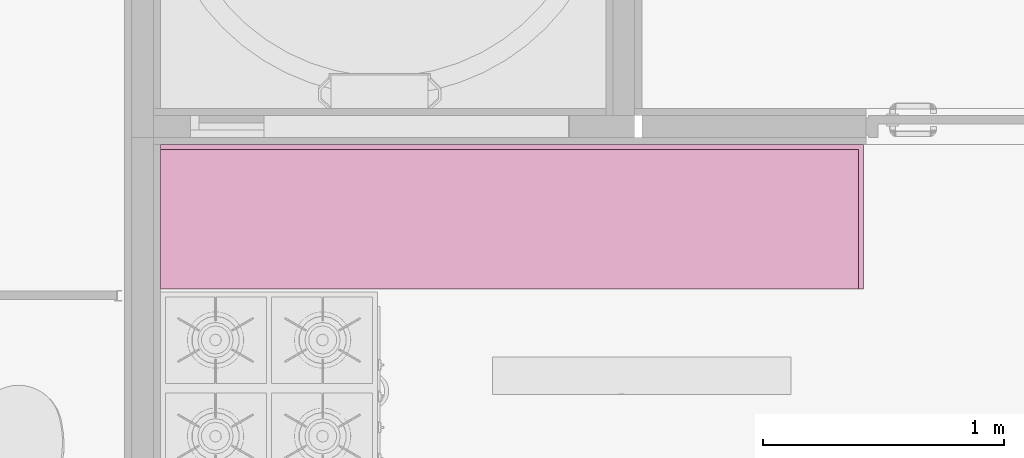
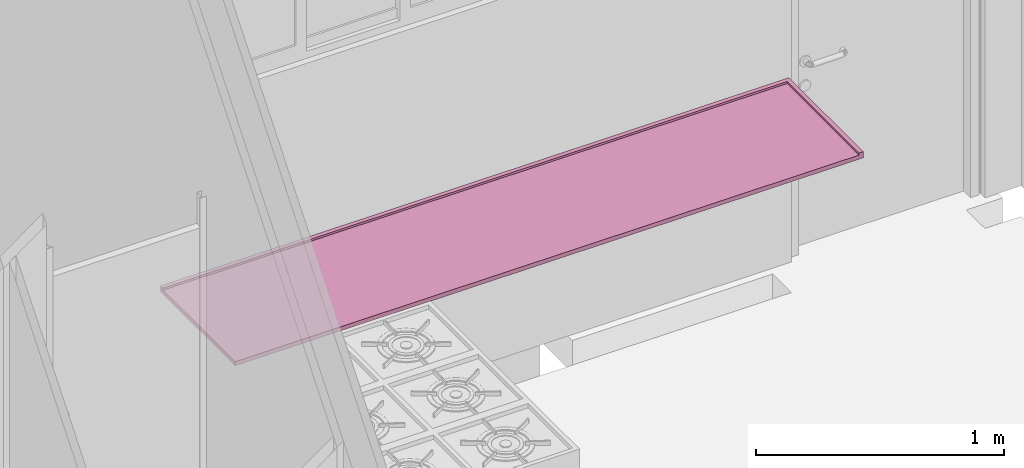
# One storey, part 150 of 155: 1 furnishing.
"""IFC2X3 building model written with IfcOpenShell, lengths in metres."""

from ifc_helpers import new_model, entity, si_unit, converted_unit, derived_unit, direction, frame, frame_2d, origin, origin_2d_with_axis, place, context, subcontext, project, spatial, rectangle, extrude, source, transform, mapped, type_object, type_shapes, element, save


model = new_model("IFC2X3")

# Units and contexts
model_context = context("Model", 3, precision=1e-05, world=origin(), true_north=direction((6.12303176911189e-17, 1.0)))
body_context = subcontext(model_context, "Body", "Model", "MODEL_VIEW")
ifc_project = project(units=[si_unit("LENGTHUNIT", "METRE"), si_unit("AREAUNIT", "SQUARE_METRE"), si_unit("VOLUMEUNIT", "CUBIC_METRE"), converted_unit("PLANEANGLEUNIT", "DEGREE", entity("IfcRatioMeasure", 0.0174532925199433), si_unit("PLANEANGLEUNIT", "RADIAN"), dimensions=[0, 0, 0, 0, 0, 0, 0]), si_unit("MASSUNIT", "GRAM", prefix="KILO"), derived_unit("MASSDENSITYUNIT", [(si_unit("MASSUNIT", "GRAM", prefix="KILO"), 1), (si_unit("LENGTHUNIT", "METRE"), -3)]), si_unit("TIMEUNIT", "SECOND"), si_unit("FREQUENCYUNIT", "HERTZ"), si_unit("THERMODYNAMICTEMPERATUREUNIT", "DEGREE_CELSIUS"), derived_unit("THERMALTRANSMITTANCEUNIT", [(si_unit("MASSUNIT", "GRAM", prefix="KILO"), 1), (si_unit("THERMODYNAMICTEMPERATUREUNIT", "KELVIN"), -1), (si_unit("TIMEUNIT", "SECOND"), -3)]), derived_unit("VOLUMETRICFLOWRATEUNIT", [(si_unit("LENGTHUNIT", "METRE"), 3), (si_unit("TIMEUNIT", "SECOND"), -1)]), si_unit("ELECTRICCURRENTUNIT", "AMPERE"), si_unit("ELECTRICVOLTAGEUNIT", "VOLT"), si_unit("POWERUNIT", "WATT"), si_unit("FORCEUNIT", "NEWTON", prefix="KILO"), si_unit("ILLUMINANCEUNIT", "LUX"), si_unit("LUMINOUSFLUXUNIT", "LUMEN"), si_unit("LUMINOUSINTENSITYUNIT", "CANDELA"), derived_unit("USERDEFINED", [(si_unit("MASSUNIT", "GRAM", prefix="KILO"), -1), (si_unit("LENGTHUNIT", "METRE"), -2), (si_unit("TIMEUNIT", "SECOND"), 3), (si_unit("LUMINOUSFLUXUNIT", "LUMEN"), 1)]), derived_unit("LINEARVELOCITYUNIT", [(si_unit("LENGTHUNIT", "METRE"), 1), (si_unit("TIMEUNIT", "SECOND"), -1)]), si_unit("PRESSUREUNIT", "PASCAL"), derived_unit("USERDEFINED", [(si_unit("LENGTHUNIT", "METRE"), -2), (si_unit("MASSUNIT", "GRAM", prefix="KILO"), 1), (si_unit("TIMEUNIT", "SECOND"), -2)])], contexts=[model_context])

# Site, building, storey, space
site_placement = place(None, frame((26.9889013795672, -17.5624287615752, 0.0)))
site = spatial("IfcSite", under=ifc_project, at=site_placement, Name="Default", CompositionType="ELEMENT")
building_placement = place(site_placement, origin())
building = spatial("IfcBuilding", under=site, at=building_placement, Name="C. C. L. Monsenhor Antônio Sampaio", CompositionType="ELEMENT")
storey_placement = place(building_placement, frame((0.0, 0.0, 1.19999999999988)))
storey = spatial("IfcBuildingStorey", under=building, at=storey_placement, Name="Nível 1.2", CompositionType="ELEMENT", Elevation=1.19999999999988)
space_placement = place(storey_placement, origin())
space = spatial("IfcSpace", under=storey, at=space_placement, Name="90", CompositionType="ELEMENT", InteriorOrExteriorSpace="INTERNAL")

# Furnishing
furniture_type = type_object("IfcFurnitureType", Name="Bancada")
shared_shape = source(origin(), body_context, "Body", "SweptSolid", [
    extrude(rectangle(XDim=0.6, YDim=2.92016826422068, at=frame_2d((0.0, 2.22044604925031e-16), x_axis=(1.0, 0.0))), frame((1.18953184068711, -11.253066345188, 2.07999999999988), z_axis=(0.0, 0.0, 1.0), x_axis=(0.0, 1.0, 0.0)), (0.0, 0.0, 1.0), 0.0200000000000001),
    extrude(rectangle(XDim=0.0199999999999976, YDim=2.92016826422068, at=origin_2d_with_axis()), frame((1.18953184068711, -10.963066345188, 2.09999999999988), z_axis=(0.0, 0.0, 1.0), x_axis=(0.0, 1.0, 0.0)), (0.0, 0.0, 1.0), 0.00999999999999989),
    extrude(rectangle(XDim=0.0199999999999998, YDim=0.580000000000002, at=frame_2d((-2.70616862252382e-16, 0.0), x_axis=(1.0, 0.0))), frame((2.63961597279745, -11.2630663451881, 2.09999999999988)), (0.0, 0.0, 1.0), 0.00999999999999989),
])
type_shapes(furniture_type, [shared_shape])
furnishing_placement = place(space_placement, frame((0.0, 0.0, -1.19999999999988)))
element("IfcFurnishingElement", 1, at=furnishing_placement, inside=space, type_object=furniture_type, Name="BancadaL:Bancada", ObjectType="Bancada", context=body_context, shape_type="MappedRepresentation", body=[
    mapped(shared_shape, transform((0.0, 0.0, 0.0), scale=1.0)),
])

save(model, "model.ifc")
